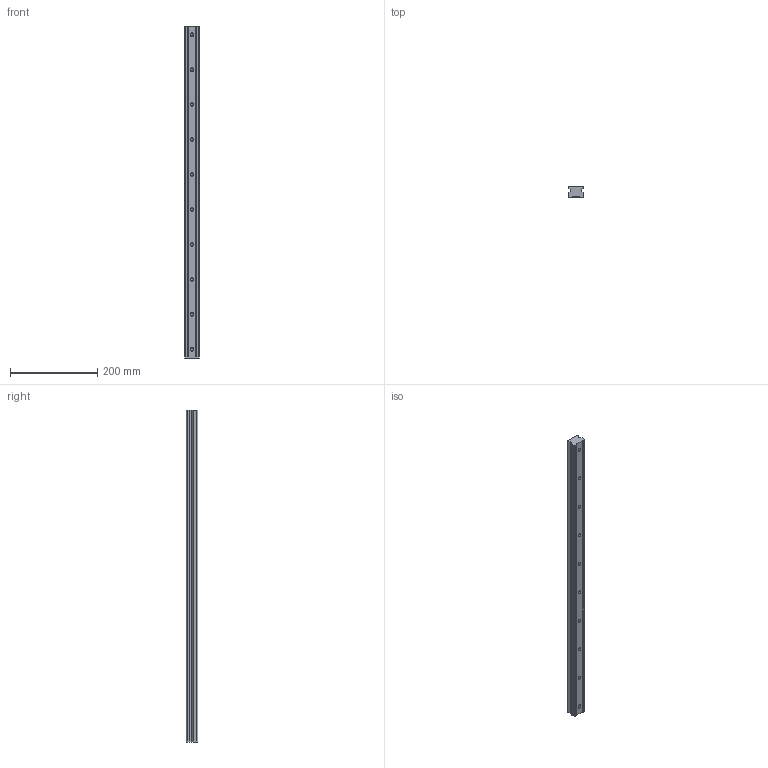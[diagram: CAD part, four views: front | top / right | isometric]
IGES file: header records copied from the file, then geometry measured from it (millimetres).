
Start section: SolidWorks IGES file using analytic representation for surfaces
Global section: file name: C:\Users\IanO\Desktop\Temp File\GENERAL\L1016_v2\L1016.RF35_v2\L1016.RF35_v2_20190612_IGES\L1016.RF35-0760.igs; native system: SolidWorks 2017; preprocessor: SolidWorks 2017; author: IanO; date: 190613.172601; units: millimetre
Bounding box: 34 x 26 x 760 mm (x, y, z)
Surface area: 100336.1 mm2 (no closed solid volume)
Topology: 0 solids, 0 shells, 96 faces, 1368 edges, 1348 vertices
Faces by surface type: revolution 64, bspline 32
